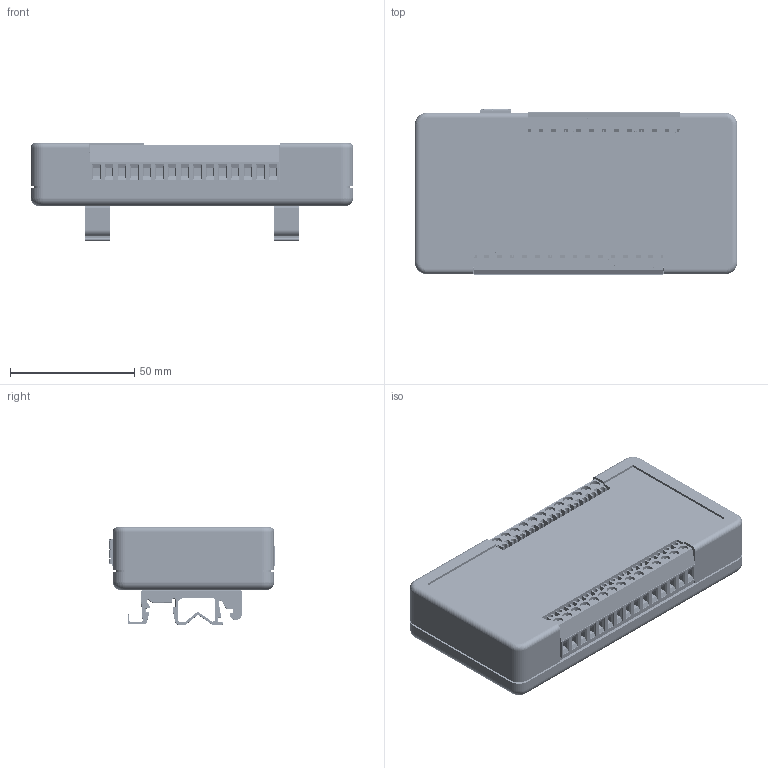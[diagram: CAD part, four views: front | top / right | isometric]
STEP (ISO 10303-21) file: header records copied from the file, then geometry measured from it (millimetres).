
FILE_DESCRIPTION (( 'STEP AP214' ), '1' );
FILE_NAME ('ADU Terminal Block, DIN.STEP', '2018-09-24T19:36:08', ( '' ), ( '' ), 'SwSTEP 2.0', 'SolidWorks 2014', '' );
FILE_SCHEMA (( 'AUTOMOTIVE_DESIGN' ));
Length unit declared in the file: millimetre
Products named in the file (11): 91420A127_METRIC FLAT HEAD PHILLIPS MACHINE SCREW_91420A127; 90272A144_ZINC-PLTD STL PAN HEAD PHILLIPS MACHINE SCREW_90272A144; 1427DINCLIP; 94510A240_BRASS SCREW-TO-EXPAND INSERTS FOR PLASTICS_94510A240; ADU Top; USB; Wieland_25.163.0353.0_CAD STEP data; 90380A106_PHILLIPS THREAD-FORMING SCREW FOR PLASTIC_90380A106; PCB; ADU Base; ADU Terminal Block, DIN
Assembly tree (31 placements, depth 2):
  ADU Terminal Block, DIN
    ADU Base
    PCB
    90380A106_PHILLIPS THREAD-FORMING SCREW FOR PLASTIC_90380A106  x4
    Wieland_25.163.0353.0_CAD STEP data  x9
    USB
    ADU Top
    94510A240_BRASS SCREW-TO-EXPAND INSERTS FOR PLASTICS_94510A240  x4
    1427DINCLIP  x2
    90272A144_ZINC-PLTD STL PAN HEAD PHILLIPS MACHINE SCREW_90272A144  x4
    91420A127_METRIC FLAT HEAD PHILLIPS MACHINE SCREW_91420A127  x4
Bounding box: 130 x 66.8 x 39.5 mm (x, y, z)
Volume: 87225.3 mm3; surface area: 86420.7 mm2
Topology: 30 solids, 31 shells, 7934 faces, 19273 edges, 11479 vertices
Faces by surface type: bspline 3262, cylinder 2249, plane 2045, cone 314, torus 48, sphere 16
Entity records: 135463 total; most frequent: CARTESIAN_POINT 78531, ORIENTED_EDGE 13080, DIRECTION 8217, EDGE_CURVE 6544, VERTEX_POINT 3952, VECTOR 2785, LINE 2785, EDGE_LOOP 2738
